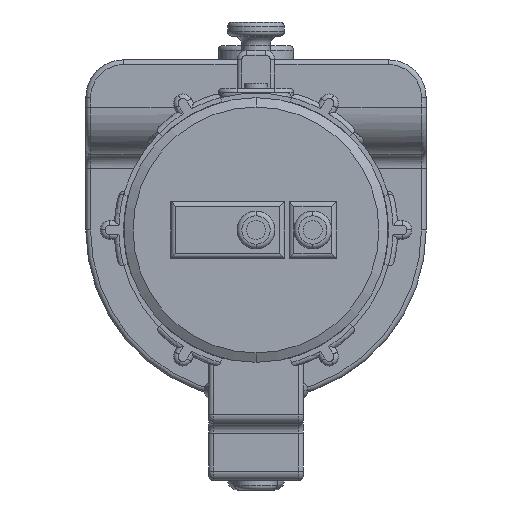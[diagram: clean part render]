
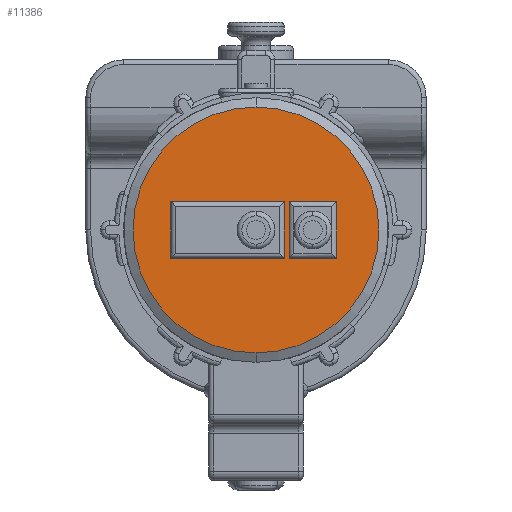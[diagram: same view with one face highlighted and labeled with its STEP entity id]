
A CAD part, front view. The second image highlights one B-rep face of the part: STEP entity #11386.
In plain terms, the highlighted planar face has unit normal (0, -1, 0).
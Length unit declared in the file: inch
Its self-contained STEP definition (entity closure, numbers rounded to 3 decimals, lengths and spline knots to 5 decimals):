
#160 = ORIENTED_EDGE ( 'NONE', *, *, #13048, .T. ) ;
#301 = CARTESIAN_POINT ( 'NONE',  ( 0.53125, 0., 0.1875 ) ) ;
#1286 = VECTOR ( 'NONE', #14655, 39.37008 ) ;
#1886 = VERTEX_POINT ( 'NONE', #12058 ) ;
#1917 = VERTEX_POINT ( 'NONE', #4092 ) ;
#2976 = CARTESIAN_POINT ( 'NONE',  ( 0., 0., 0. ) ) ;
#3027 = EDGE_CURVE ( 'NONE', #1917, #18057, #19843, .T. ) ;
#3406 = PLANE ( 'NONE',  #24808 ) ;
#3627 = LINE ( 'NONE', #27056, #22567 ) ;
#3871 = CARTESIAN_POINT ( 'NONE',  ( 0.125, 0., -0.1875 ) ) ;
#3945 = CARTESIAN_POINT ( 'NONE',  ( 0.28125, 0., -1.71875 ) ) ;
#4092 = CARTESIAN_POINT ( 'NONE',  ( -0.5625, 0., 0.1875 ) ) ;
#4231 = LINE ( 'NONE', #3945, #26151 ) ;
#4467 = CARTESIAN_POINT ( 'NONE',  ( 0.125, 0., -1.71875 ) ) ;
#4564 = DIRECTION ( 'NONE',  ( 0., 0., 1. ) ) ;
#5356 = LINE ( 'NONE', #9585, #24610 ) ;
#5771 = ORIENTED_EDGE ( 'NONE', *, *, #20162, .F. ) ;
#5792 = VECTOR ( 'NONE', #9558, 39.37008 ) ;
#6020 = EDGE_CURVE ( 'NONE', #18057, #15874, #5356, .T. ) ;
#6070 = CARTESIAN_POINT ( 'NONE',  ( -0.5625, 0., -0.1875 ) ) ;
#6092 = CARTESIAN_POINT ( 'NONE',  ( 0., 0., -0.8125 ) ) ;
#6615 = CARTESIAN_POINT ( 'NONE',  ( 0.53125, 0., -0.1875 ) ) ;
#6882 = CARTESIAN_POINT ( 'NONE',  ( 0.53125, 0., 0.1875 ) ) ;
#7353 = CIRCLE ( 'NONE', #25242, 0.8125 ) ;
#7573 = LINE ( 'NONE', #10071, #22513 ) ;
#7672 = ORIENTED_EDGE ( 'NONE', *, *, #10801, .T. ) ;
#8367 = VERTEX_POINT ( 'NONE', #15023 ) ;
#8724 = EDGE_LOOP ( 'NONE', ( #7672, #26386 ) ) ;
#9352 = CARTESIAN_POINT ( 'NONE',  ( 0.125, 0., 0.1875 ) ) ;
#9558 = DIRECTION ( 'NONE',  ( -1., 0., 0. ) ) ;
#9585 = CARTESIAN_POINT ( 'NONE',  ( -0.5625, 0., -0.1875 ) ) ;
#9727 = CARTESIAN_POINT ( 'NONE',  ( 0., 0., 0. ) ) ;
#9873 = VERTEX_POINT ( 'NONE', #9352 ) ;
#9894 = AXIS2_PLACEMENT_3D ( 'NONE', #2976, #24538, #19940 ) ;
#10071 = CARTESIAN_POINT ( 'NONE',  ( 0.53125, 0., -0.1875 ) ) ;
#10801 = EDGE_CURVE ( 'NONE', #8367, #13944, #7353, .T. ) ;
#11045 = ORIENTED_EDGE ( 'NONE', *, *, #3027, .F. ) ;
#11184 = CIRCLE ( 'NONE', #9894, 0.8125 ) ;
#11265 = LINE ( 'NONE', #301, #19186 ) ;
#11386 = ADVANCED_FACE ( 'NONE', ( #26572, #14901, #15549 ), #3406, .F. ) ;
#11574 = EDGE_CURVE ( 'NONE', #17303, #21413, #3627, .T. ) ;
#11656 = DIRECTION ( 'NONE',  ( 0., 0., 1. ) ) ;
#11701 = DIRECTION ( 'NONE',  ( 1., 0., 0. ) ) ;
#11759 = CARTESIAN_POINT ( 'NONE',  ( -0.5625, 0., 0.1875 ) ) ;
#12058 = CARTESIAN_POINT ( 'NONE',  ( 0.28125, 0., 0.1875 ) ) ;
#13048 = EDGE_CURVE ( 'NONE', #13654, #1886, #4231, .T. ) ;
#13654 = VERTEX_POINT ( 'NONE', #23747 ) ;
#13775 = DIRECTION ( 'NONE',  ( 0., 1., 0. ) ) ;
#13944 = VERTEX_POINT ( 'NONE', #6092 ) ;
#14136 = EDGE_LOOP ( 'NONE', ( #5771, #21163, #11045, #25295 ) ) ;
#14655 = DIRECTION ( 'NONE',  ( 0., 0., -1. ) ) ;
#14901 = FACE_OUTER_BOUND ( 'NONE', #8724, .T. ) ;
#15023 = CARTESIAN_POINT ( 'NONE',  ( 0., 0., 0.8125 ) ) ;
#15104 = EDGE_CURVE ( 'NONE', #21413, #1886, #11265, .T. ) ;
#15119 = DIRECTION ( 'NONE',  ( -1., 0., 0. ) ) ;
#15262 = CARTESIAN_POINT ( 'NONE',  ( 0., 0., 0. ) ) ;
#15549 = FACE_BOUND ( 'NONE', #22545, .T. ) ;
#15678 = VECTOR ( 'NONE', #4564, 39.37008 ) ;
#15874 = VERTEX_POINT ( 'NONE', #3871 ) ;
#16692 = LINE ( 'NONE', #4467, #15678 ) ;
#17303 = VERTEX_POINT ( 'NONE', #6615 ) ;
#18057 = VERTEX_POINT ( 'NONE', #22533 ) ;
#18492 = DIRECTION ( 'NONE',  ( 0., 0., 1. ) ) ;
#18962 = EDGE_CURVE ( 'NONE', #13944, #8367, #11184, .T. ) ;
#19042 = LINE ( 'NONE', #11759, #5792 ) ;
#19186 = VECTOR ( 'NONE', #15119, 39.37008 ) ;
#19346 = ORIENTED_EDGE ( 'NONE', *, *, #15104, .F. ) ;
#19563 = DIRECTION ( 'NONE',  ( 0., -1., 0. ) ) ;
#19843 = LINE ( 'NONE', #6070, #1286 ) ;
#19940 = DIRECTION ( 'NONE',  ( 0., 0., 1. ) ) ;
#20162 = EDGE_CURVE ( 'NONE', #15874, #9873, #16692, .T. ) ;
#21097 = DIRECTION ( 'NONE',  ( 0., 0., 1. ) ) ;
#21163 = ORIENTED_EDGE ( 'NONE', *, *, #6020, .F. ) ;
#21413 = VERTEX_POINT ( 'NONE', #6882 ) ;
#22011 = DIRECTION ( 'NONE',  ( 0., 0., 1. ) ) ;
#22513 = VECTOR ( 'NONE', #26765, 39.37008 ) ;
#22533 = CARTESIAN_POINT ( 'NONE',  ( -0.5625, 0., -0.1875 ) ) ;
#22545 = EDGE_LOOP ( 'NONE', ( #23199, #160, #19346, #27184 ) ) ;
#22567 = VECTOR ( 'NONE', #18492, 39.37008 ) ;
#23199 = ORIENTED_EDGE ( 'NONE', *, *, #24209, .F. ) ;
#23747 = CARTESIAN_POINT ( 'NONE',  ( 0.28125, 0., -0.1875 ) ) ;
#24209 = EDGE_CURVE ( 'NONE', #13654, #17303, #7573, .T. ) ;
#24538 = DIRECTION ( 'NONE',  ( 0., -1., 0. ) ) ;
#24610 = VECTOR ( 'NONE', #11701, 39.37008 ) ;
#24808 = AXIS2_PLACEMENT_3D ( 'NONE', #9727, #13775, #11656 ) ;
#25242 = AXIS2_PLACEMENT_3D ( 'NONE', #15262, #19563, #22011 ) ;
#25295 = ORIENTED_EDGE ( 'NONE', *, *, #25584, .F. ) ;
#25584 = EDGE_CURVE ( 'NONE', #9873, #1917, #19042, .T. ) ;
#26151 = VECTOR ( 'NONE', #21097, 39.37008 ) ;
#26386 = ORIENTED_EDGE ( 'NONE', *, *, #18962, .T. ) ;
#26572 = FACE_BOUND ( 'NONE', #14136, .T. ) ;
#26765 = DIRECTION ( 'NONE',  ( 1., 0., 0. ) ) ;
#27056 = CARTESIAN_POINT ( 'NONE',  ( 0.53125, 0., -0.1875 ) ) ;
#27184 = ORIENTED_EDGE ( 'NONE', *, *, #11574, .F. ) ;
